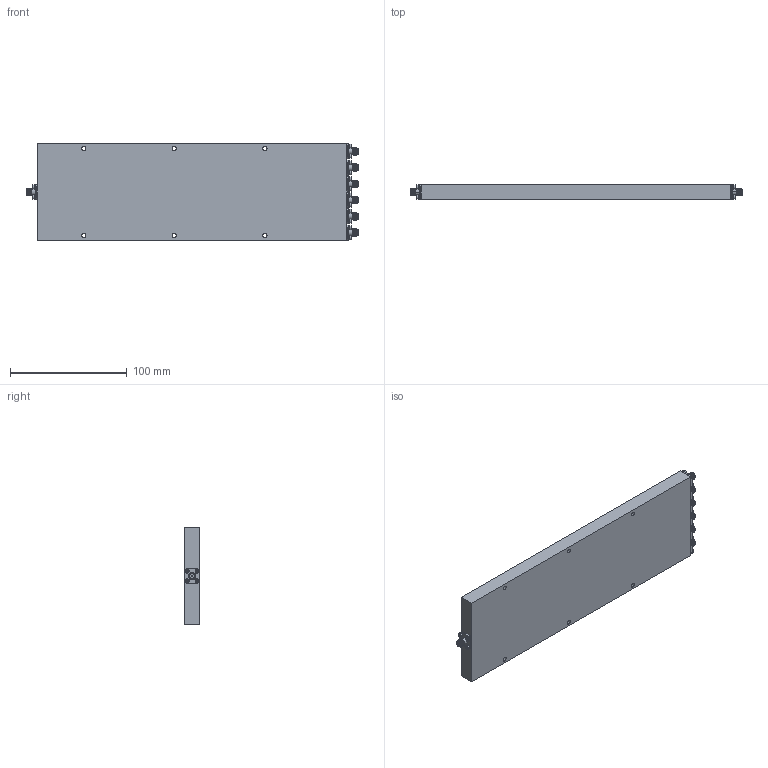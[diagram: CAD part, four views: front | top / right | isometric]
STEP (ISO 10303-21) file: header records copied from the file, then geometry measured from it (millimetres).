
FILE_DESCRIPTION (( 'STEP AP214' ), '1' );
FILE_NAME ('APD-6-0R5G20G-SFF.STEP', '2025-08-12T11:31:11', ( '' ), ( '' ), 'SwSTEP 2.0', 'SolidWorks 2024', '' );
FILE_SCHEMA (( 'AUTOMOTIVE_DESIGN' ));
Length unit declared in the file: inch
Products named in the file (1): APD-6-0R5G20G-SFF
Bounding box: 283.82 x 12.8 x 82.3 mm (x, y, z)
Volume: 281422.4 mm3; surface area: 95278.9 mm2
Topology: 100 solids, 100 shells, 2199 faces, 6337 edges, 4534 vertices
Faces by surface type: plane 996, cylinder 587, torus 322, cone 224, sphere 56, bspline 14
Entity records: 93956 total; most frequent: CARTESIAN_POINT 26051, ORIENTED_EDGE 12618, DIRECTION 11975, EDGE_CURVE 6309, AXIS2_PLACEMENT_3D 4627, VERTEX_POINT 4534, VECTOR 2721, LINE 2721
